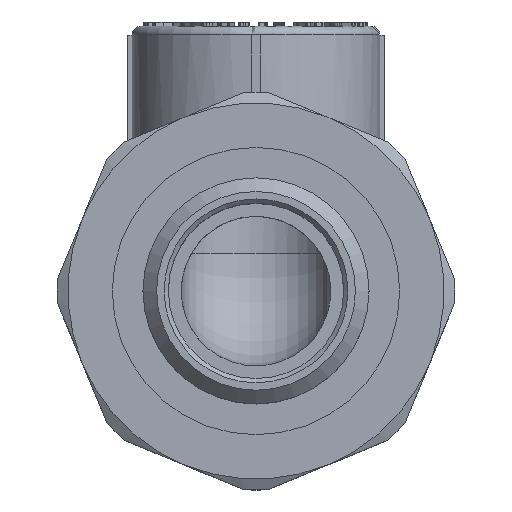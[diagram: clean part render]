
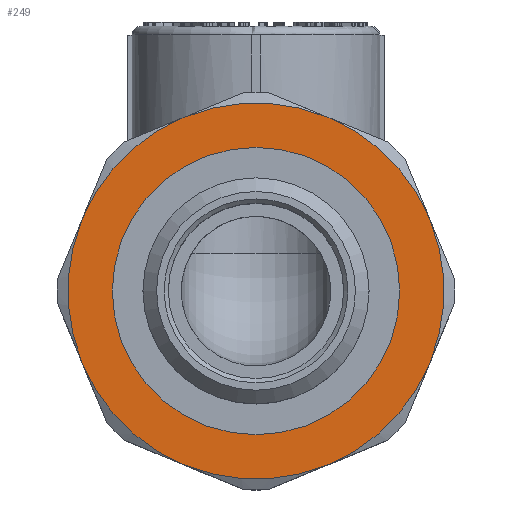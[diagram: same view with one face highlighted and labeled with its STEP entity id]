
A CAD part, top view. The second image highlights one B-rep face of the part: STEP entity #249.
In plain terms, the highlighted planar face has unit normal (0, 0, 1).
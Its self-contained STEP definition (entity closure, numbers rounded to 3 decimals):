
#249=ADVANCED_FACE('',(#962,#964),#966,.T.);
#962=FACE_BOUND('',#963,.T.);
#963=EDGE_LOOP('',(#5824));
#964=FACE_BOUND('',#965,.T.);
#965=EDGE_LOOP('',(#5825));
#966=PLANE('',#967);
#967=AXIS2_PLACEMENT_3D('',#968,#969,#970);
#968=CARTESIAN_POINT('',(0.,0.,31.75));
#969=DIRECTION('',(0.,0.,1.));
#970=DIRECTION('',(-1.,0.,0.));
#5824=ORIENTED_EDGE('',*,*,#10386,.T.);
#5825=ORIENTED_EDGE('',*,*,#10387,.T.);
#10386=EDGE_CURVE('',#12192,#12192,#12193,.F.);
#10387=EDGE_CURVE('',#12194,#12194,#12195,.T.);
#12192=VERTEX_POINT('',#15219);
#12193=CIRCLE('',#15220,22.);
#12194=VERTEX_POINT('',#15224);
#12195=CIRCLE('',#15225,16.8);
#15219=CARTESIAN_POINT('',(-8.419,20.325,31.75));
#15220=AXIS2_PLACEMENT_3D('',#15221,#15222,#15223);
#15221=CARTESIAN_POINT('',(0.,0.,31.75));
#15222=DIRECTION('',(0.,0.,-1.));
#15223=DIRECTION('',(0.,1.,0.));
#15224=CARTESIAN_POINT('',(16.8,0.,31.75));
#15225=AXIS2_PLACEMENT_3D('',#15226,#15227,#15228);
#15226=CARTESIAN_POINT('',(0.,0.,31.75));
#15227=DIRECTION('',(0.,0.,-1.));
#15228=DIRECTION('',(1.,0.,0.));
